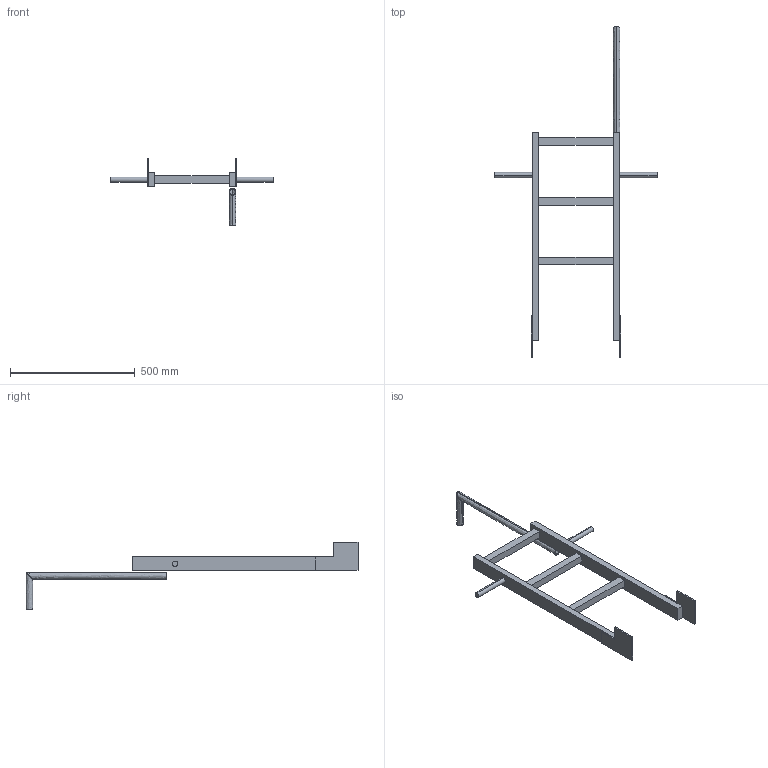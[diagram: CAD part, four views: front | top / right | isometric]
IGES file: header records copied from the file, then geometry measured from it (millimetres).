
Start section:  PTC IGES file: 52331214.igs
Global section: file name: 52331214.igs; native system: Creo Parametric by PTC Inc.; preprocessor: 2022162; author: wep; organization: Unknown; date: 20241218.090448; units: millimetre
Bounding box: 650 x 1330.45 x 271.35 mm (x, y, z)
Surface area: 554121.8 mm2 (no closed solid volume)
Topology: 0 solids, 0 shells, 56 faces, 280 edges, 280 vertices
Faces by surface type: bspline 44, revolution 12
